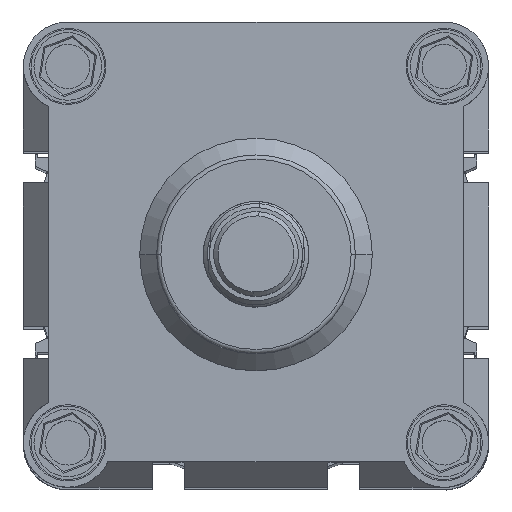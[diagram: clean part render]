
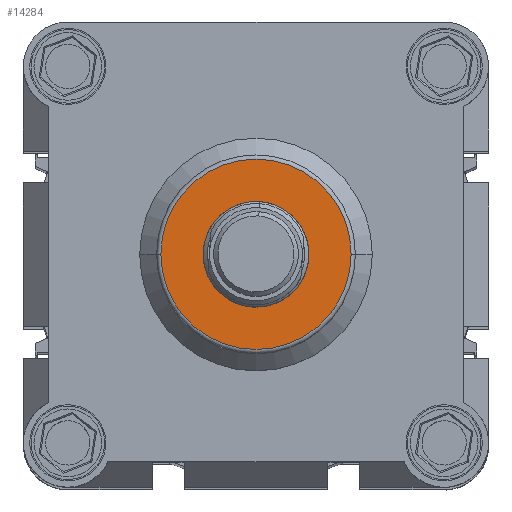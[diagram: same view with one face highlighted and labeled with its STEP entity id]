
A CAD part, top view. The second image highlights one B-rep face of the part: STEP entity #14284.
In plain terms, the highlighted planar face has unit normal (0, 0, 1).
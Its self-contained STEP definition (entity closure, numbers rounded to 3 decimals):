
#483 = DIRECTION ( 'NONE',  ( 0., 0., 1. ) ) ;
#676 = EDGE_LOOP ( 'NONE', ( #10156, #20933 ) ) ;
#799 = CARTESIAN_POINT ( 'NONE',  ( 55., 55., 80. ) ) ;
#1813 = CIRCLE ( 'NONE', #12424, 22.5 ) ;
#2226 = ORIENTED_EDGE ( 'NONE', *, *, #8451, .T. ) ;
#2501 = DIRECTION ( 'NONE',  ( 1., 0., 0. ) ) ;
#2651 = AXIS2_PLACEMENT_3D ( 'NONE', #11694, #2884, #9878 ) ;
#2743 = EDGE_CURVE ( 'NONE', #12296, #12719, #8474, .T. ) ;
#2884 = DIRECTION ( 'NONE',  ( 0., 0., 1. ) ) ;
#3123 = CARTESIAN_POINT ( 'NONE',  ( 55., 55., 80. ) ) ;
#3558 = CARTESIAN_POINT ( 'NONE',  ( 77.5, 55., 80. ) ) ;
#4486 = EDGE_LOOP ( 'NONE', ( #2226, #4822 ) ) ;
#4650 = VERTEX_POINT ( 'NONE', #21447 ) ;
#4822 = ORIENTED_EDGE ( 'NONE', *, *, #16454, .T. ) ;
#6072 = FACE_OUTER_BOUND ( 'NONE', #4486, .T. ) ;
#6654 = DIRECTION ( 'NONE',  ( 1., 0., 0. ) ) ;
#7474 = DIRECTION ( 'NONE',  ( 0., 0., 1. ) ) ;
#7653 = CIRCLE ( 'NONE', #2651, 22.5 ) ;
#8451 = EDGE_CURVE ( 'NONE', #19532, #4650, #1813, .T. ) ;
#8474 = CIRCLE ( 'NONE', #10171, 12.5 ) ;
#9257 = EDGE_CURVE ( 'NONE', #12719, #12296, #16874, .T. ) ;
#9878 = DIRECTION ( 'NONE',  ( 1., 0., 0. ) ) ;
#10084 = DIRECTION ( 'NONE',  ( 0., 0., 1. ) ) ;
#10156 = ORIENTED_EDGE ( 'NONE', *, *, #9257, .F. ) ;
#10171 = AXIS2_PLACEMENT_3D ( 'NONE', #13145, #7474, #20036 ) ;
#10299 = PLANE ( 'NONE',  #18187 ) ;
#11628 = DIRECTION ( 'NONE',  ( 0., 0., 1. ) ) ;
#11694 = CARTESIAN_POINT ( 'NONE',  ( 55., 55., 80. ) ) ;
#12296 = VERTEX_POINT ( 'NONE', #22333 ) ;
#12424 = AXIS2_PLACEMENT_3D ( 'NONE', #20847, #10084, #6654 ) ;
#12719 = VERTEX_POINT ( 'NONE', #13059 ) ;
#12879 = AXIS2_PLACEMENT_3D ( 'NONE', #799, #483, #2501 ) ;
#13059 = CARTESIAN_POINT ( 'NONE',  ( 67.5, 55., 80. ) ) ;
#13145 = CARTESIAN_POINT ( 'NONE',  ( 55., 55., 80. ) ) ;
#14284 = ADVANCED_FACE ( 'NONE', ( #18099, #6072 ), #10299, .T. ) ;
#15162 = DIRECTION ( 'NONE',  ( 1., 0., 0. ) ) ;
#16454 = EDGE_CURVE ( 'NONE', #4650, #19532, #7653, .T. ) ;
#16874 = CIRCLE ( 'NONE', #12879, 12.5 ) ;
#18099 = FACE_BOUND ( 'NONE', #676, .T. ) ;
#18187 = AXIS2_PLACEMENT_3D ( 'NONE', #3123, #11628, #15162 ) ;
#19532 = VERTEX_POINT ( 'NONE', #3558 ) ;
#20036 = DIRECTION ( 'NONE',  ( 1., 0., 0. ) ) ;
#20847 = CARTESIAN_POINT ( 'NONE',  ( 55., 55., 80. ) ) ;
#20933 = ORIENTED_EDGE ( 'NONE', *, *, #2743, .F. ) ;
#21447 = CARTESIAN_POINT ( 'NONE',  ( 32.5, 55., 80. ) ) ;
#22333 = CARTESIAN_POINT ( 'NONE',  ( 42.5, 55., 80. ) ) ;
